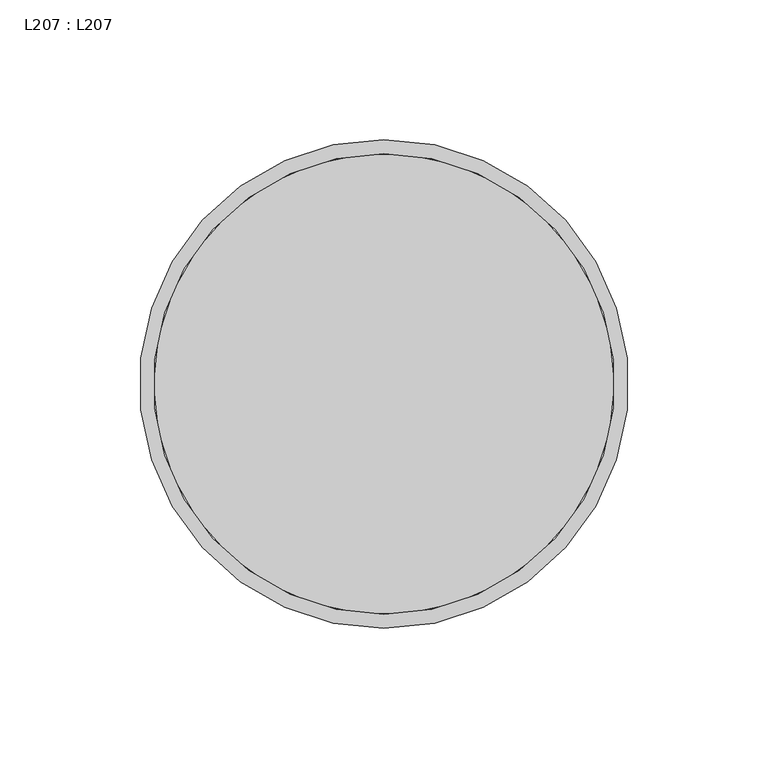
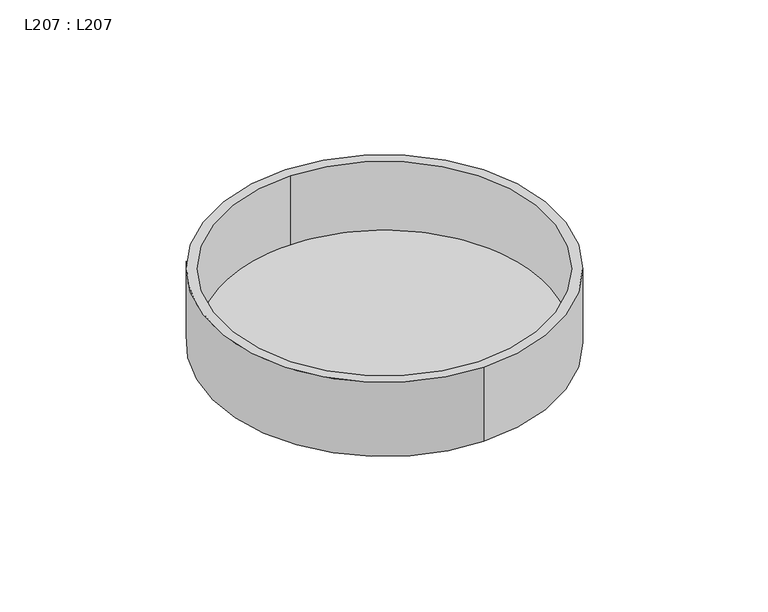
"""IFC4 building model written with IfcOpenShell, lengths in millimetres: light fixture geometry, L207 : L207."""

from ifc_helpers import new_model, si_unit, point, frame, origin, origin_2d, place, context, project, spatial, circle_curve, trimmed, segment, composite_curve, outline, extrude, source, transform, mapped, element, save


def l207_l207_df287294(model_context):
    return source(origin(), model_context, "Body", "SweptSolid", [
        extrude(outline(composite_curve([segment(trimmed(circle_curve(origin_2d(), 82.5), [point((-82.5, 0.0))], [point((82.5, 0.0))], False, "CARTESIAN"), True, "CONTINUOUS"), segment(trimmed(circle_curve(origin_2d(), 82.5), [point((82.5, 0.0))], [point((-82.5, 0.0))], False, "CARTESIAN"), True, "CONTINUOUS")], self_intersect=False)), frame((0.0, 0.0, 2960.0), z_axis=(0.0, 0.0, 1.0), x_axis=(1.0, 0.0, 0.0)), (0.0, 0.0, 1.0), 3.0),
        extrude(outline(composite_curve([segment(trimmed(circle_curve(origin_2d(), 87.5), [point((0.0, -87.5))], [point((0.0, 87.5))], False, "CARTESIAN"), True, "CONTINUOUS"), segment(trimmed(circle_curve(origin_2d(), 87.5), [point((0.0, 87.5))], [point((0.0, -87.5))], False, "CARTESIAN"), True, "CONTINUOUS")], self_intersect=False), holes=[composite_curve([segment(trimmed(circle_curve(origin_2d(), 82.5), [point((0.0, -82.5))], [point((0.0, 82.5))], True, "CARTESIAN"), True, "CONTINUOUS"), segment(trimmed(circle_curve(origin_2d(), 82.5), [point((0.0, 82.5))], [point((0.0, -82.5))], True, "CARTESIAN"), True, "CONTINUOUS")], self_intersect=False)]), frame((0.0, 0.0, 2960.0), z_axis=(0.0, 0.0, 1.0), x_axis=(1.0, 0.0, 0.0)), (0.0, 0.0, 1.0), 40.0),
    ])


if __name__ == "__main__":
    model = new_model("IFC4")
    model_context = context("Model", 3, world=origin())
    ifc_project = project(units=[si_unit("LENGTHUNIT", "METRE", prefix="MILLI")], contexts=[model_context])
    site = spatial("IfcSite", under=ifc_project)
    building = spatial("IfcBuilding", under=site)
    placement = place(None, origin())
    l207_l207_shape = l207_l207_df287294(model_context)
    element("IfcLightFixture", 1, ObjectType="L207 : L207", at=placement, inside=building, context=model_context, shape_type="MappedRepresentation", body=[
        mapped(l207_l207_shape, transform((0.0, 0.0, 0.0), x_axis=(1.0, 0.0, 0.0), y_axis=(0.0, 1.0, 0.0), z_axis=(0.0, 0.0, 1.0))),
    ])
    save(model, "model.ifc")
